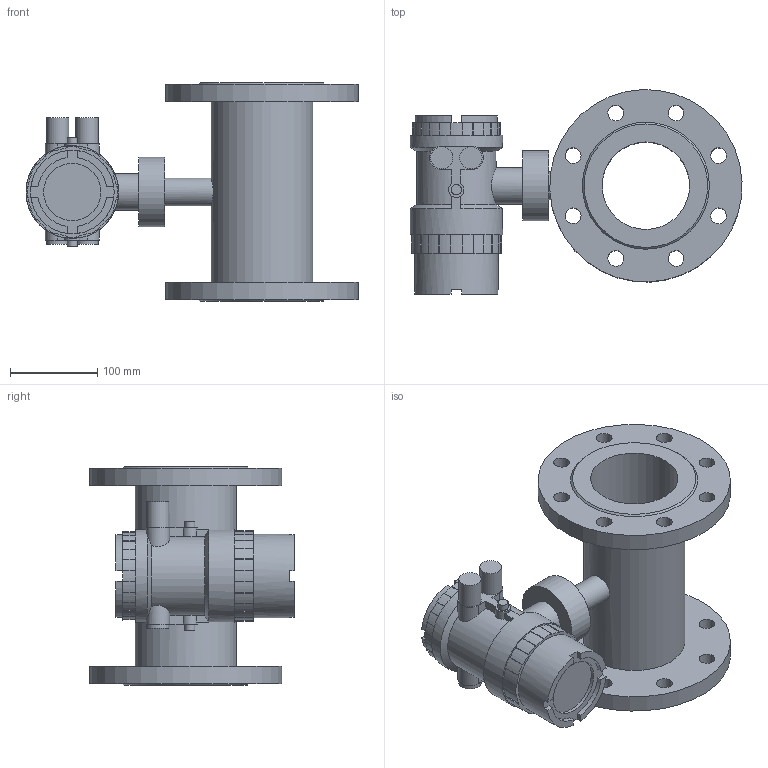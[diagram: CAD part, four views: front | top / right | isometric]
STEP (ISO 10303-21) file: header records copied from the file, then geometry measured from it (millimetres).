
FILE_DESCRIPTION( (''), '2;1');
FILE_NAME( 'QMKC_DN100.step', '2024-12-10T10:38:21+08:00', (''), (''), '', '', '');
FILE_SCHEMA (('AUTOMOTIVE_DESIGN { 1 0 10303 214 3 1 1 1 }'));
Length unit declared in the file: millimetre
Products named in the file (1): QMKC DN100
Bounding box: 379.65 x 233.9 x 250 mm (x, y, z)
Volume: 3481356.5 mm3; surface area: 427946 mm2
Topology: 1 solids, 1 shells, 215 faces, 581 edges, 390 vertices
Faces by surface type: plane 108, cylinder 101, cone 6
Full cylindrical faces by diameter (mm): 11.6 x2, 18 x16, 25.5 x4, 32 x1, 42 x1, 65.5 x1, 80 x1, 95.5 x1, 100 x1, 105.9 x2, 116 x1, 220 x2
Entity records: 6770 total; most frequent: CARTESIAN_POINT 1290, DIRECTION 1156, ORIENTED_EDGE 1070, EDGE_CURVE 535, AXIS2_PLACEMENT_3D 429, VERTEX_POINT 379, EDGE_LOOP 306, LINE 298
